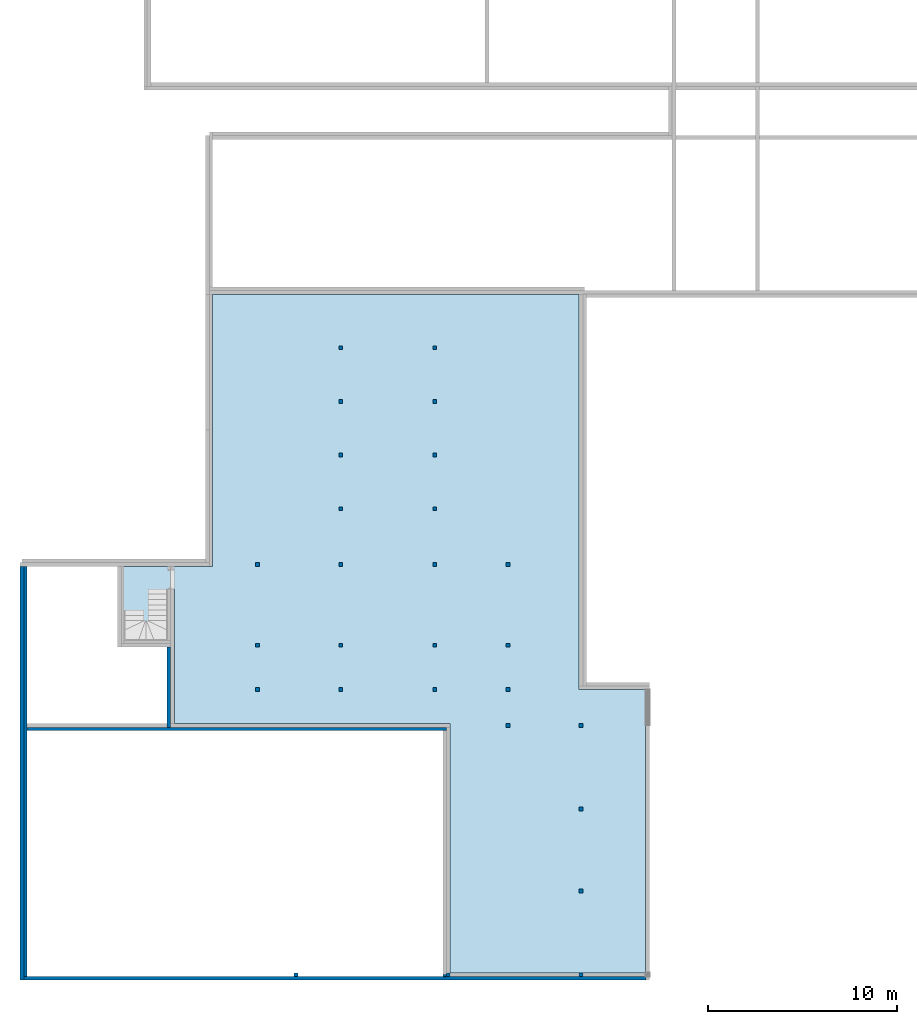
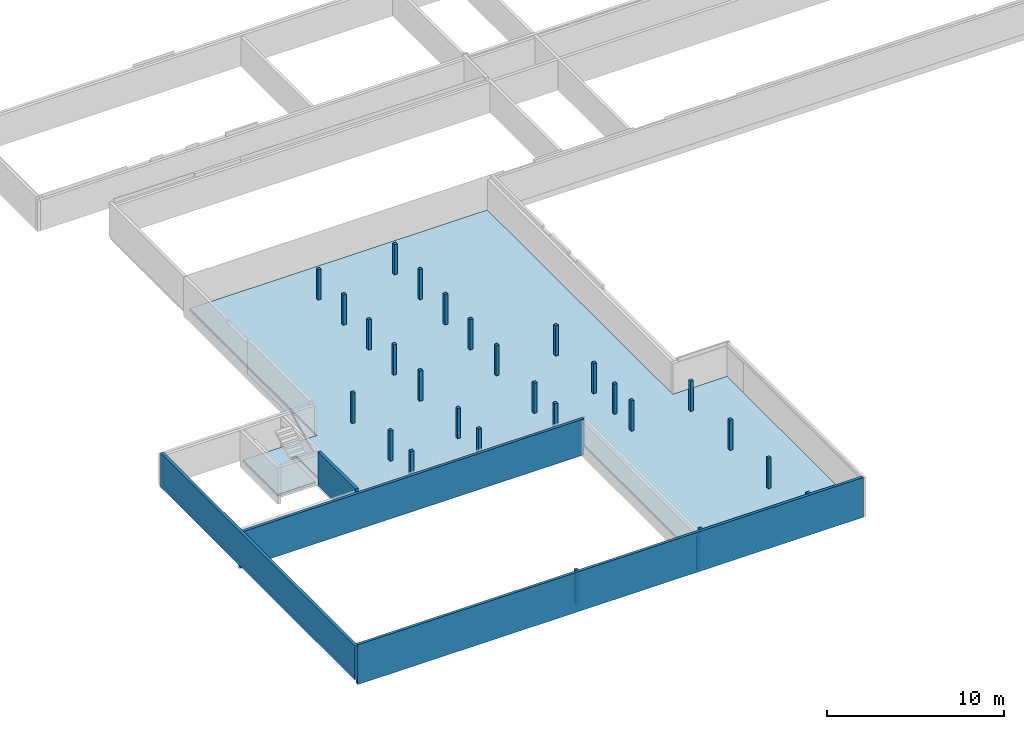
# One storey, part 1 of 6: 28 columns, 6 walls, 1 slab.
"""IFC2X3 building model written with IfcOpenShell, lengths in centimetres."""

from ifc_helpers import new_model, entity, si_unit, converted_unit, derived_unit, direction, frame, frame_2d, origin, origin_2d_with_axis, place, context, subcontext, project, spatial, polyline, rectangle, outline, extrude, clip, bounded_halfspace, source, transform, mapped, material, layer, layer_set, layer_usage, type_object, type_shapes, element, save


model = new_model("IFC2X3")

# Units and contexts
model_context = context("Model", 3, precision=0.001, world=origin(), true_north=direction((6.12303176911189e-17, 1.0)))
body_context = subcontext(model_context, "Body", "Model", "MODEL_VIEW")
ifc_project = project(units=[si_unit("LENGTHUNIT", "METRE", prefix="CENTI"), si_unit("AREAUNIT", "SQUARE_METRE"), si_unit("VOLUMEUNIT", "CUBIC_METRE"), converted_unit("PLANEANGLEUNIT", "DEGREE", entity("IfcRatioMeasure", 0.0174532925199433), si_unit("PLANEANGLEUNIT", "RADIAN"), dimensions=[0, 0, 0, 0, 0, 0, 0]), si_unit("MASSUNIT", "GRAM", prefix="KILO"), derived_unit("MASSDENSITYUNIT", [(si_unit("MASSUNIT", "GRAM", prefix="KILO"), 1), (si_unit("LENGTHUNIT", "METRE"), -3)]), si_unit("TIMEUNIT", "SECOND"), si_unit("FREQUENCYUNIT", "HERTZ"), si_unit("THERMODYNAMICTEMPERATUREUNIT", "DEGREE_CELSIUS"), derived_unit("THERMALTRANSMITTANCEUNIT", [(si_unit("MASSUNIT", "GRAM", prefix="KILO"), 1), (si_unit("THERMODYNAMICTEMPERATUREUNIT", "KELVIN"), -1), (si_unit("TIMEUNIT", "SECOND"), -3)]), derived_unit("VOLUMETRICFLOWRATEUNIT", [(si_unit("LENGTHUNIT", "METRE"), 3), (si_unit("TIMEUNIT", "SECOND"), -1)]), si_unit("ELECTRICCURRENTUNIT", "AMPERE"), si_unit("ELECTRICVOLTAGEUNIT", "VOLT"), si_unit("POWERUNIT", "WATT"), si_unit("FORCEUNIT", "NEWTON", prefix="KILO"), si_unit("ILLUMINANCEUNIT", "LUX"), si_unit("LUMINOUSFLUXUNIT", "LUMEN"), si_unit("LUMINOUSINTENSITYUNIT", "CANDELA"), derived_unit("USERDEFINED", [(si_unit("MASSUNIT", "GRAM", prefix="KILO"), -1), (si_unit("LENGTHUNIT", "METRE"), -2), (si_unit("TIMEUNIT", "SECOND"), 3), (si_unit("LUMINOUSFLUXUNIT", "LUMEN"), 1)]), derived_unit("LINEARVELOCITYUNIT", [(si_unit("LENGTHUNIT", "METRE"), 1), (si_unit("TIMEUNIT", "SECOND"), -1)]), si_unit("PRESSUREUNIT", "PASCAL"), derived_unit("USERDEFINED", [(si_unit("LENGTHUNIT", "METRE"), -2), (si_unit("MASSUNIT", "GRAM", prefix="KILO"), 1), (si_unit("TIMEUNIT", "SECOND"), -2)])], contexts=[model_context])

# Site, building, storey
site_placement = place(None, frame((-2781.94577612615, 7442.24238424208, 0.0)))
site = spatial("IfcSite", under=ifc_project, at=site_placement, Name="Default", CompositionType="ELEMENT")
building_placement = place(site_placement, origin())
building = spatial("IfcBuilding", under=site, at=building_placement, CompositionType="ELEMENT")
storey_placement = place(building_placement, frame((0.0, 0.0, -234.674140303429)))
storey = spatial("IfcBuildingStorey", under=building, at=storey_placement, Name="Vide Sanitaire", CompositionType="ELEMENT", Elevation=-234.674140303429)

# Columns
ifc_material_1 = material(Name="Maçonnerie - Béton coulé sur place")
column_type_1 = type_object("IfcColumnType", Name="200mm x 200mm", PredefinedType="COLUMN")
shared_shape_1 = source(origin(), body_context, "Body", "SweptSolid", [
    extrude(rectangle(XDim=19.9999999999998, YDim=20.0000000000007, at=frame_2d((-8.66862137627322e-13, 0.0), x_axis=(1.0, 0.0))), frame((-10421.9647381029, -5536.50173441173, -234.674140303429), z_axis=(0.0, 0.0, 1.0), x_axis=(0.0, -1.0, 0.0)), (0.0, 0.0, 1.0), 234.674140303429),
])
type_shapes(column_type_1, [shared_shape_1])
column_1_placement = place(storey_placement, frame((0.0, 0.0, 234.674140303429)))
element("IfcColumn", 1, at=column_1_placement, inside=storey, type_object=column_type_1, material=ifc_material_1, Name="Poteau béton - Carré:200mm x 200mm", ObjectType="Poteau béton - Carré:200mm x 200mm", context=body_context, shape_type="MappedRepresentation", body=[
    mapped(shared_shape_1, transform((0.0, 0.0, 0.0), scale=1.0)),
])
column_type_2 = type_object("IfcColumnType", Name="200mm x 200mm", PredefinedType="COLUMN")
shared_shape_2 = source(origin(), body_context, "Body", "SweptSolid", [
    extrude(rectangle(XDim=19.9999999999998, YDim=20.0000000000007, at=frame_2d((-8.66862137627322e-13, 0.0), x_axis=(1.0, 0.0))), frame((-10421.9647381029, -5536.50173441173, -234.674140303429), z_axis=(0.0, 0.0, 1.0), x_axis=(0.0, -1.0, 0.0)), (0.0, 0.0, 1.0), 234.674140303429),
])
type_shapes(column_type_2, [shared_shape_2])
column_2_placement = place(storey_placement, frame((0.0, 0.0, 234.674140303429)))
element("IfcColumn", 2, at=column_2_placement, inside=storey, type_object=column_type_2, material=ifc_material_1, Name="Poteau béton - Carré:200mm x 200mm", ObjectType="Poteau béton - Carré:200mm x 200mm", context=body_context, shape_type="MappedRepresentation", body=[
    mapped(shared_shape_2, transform((0.0, 0.0, 0.0), scale=1.0)),
])
column_type_3 = type_object("IfcColumnType", Name="200mm x 200mm", PredefinedType="COLUMN")
shared_shape_3 = source(origin(), body_context, "Body", "SweptSolid", [
    extrude(rectangle(XDim=19.9999999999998, YDim=20.0000000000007, at=origin_2d_with_axis()), frame((-9614.81674610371, -5536.50173441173, -234.674140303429), z_axis=(0.0, 0.0, 1.0), x_axis=(0.0, -1.0, 0.0)), (0.0, 0.0, 1.0), 234.674140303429),
])
type_shapes(column_type_3, [shared_shape_3])
column_3_placement = place(storey_placement, frame((0.0, 0.0, 234.674140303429)))
element("IfcColumn", 3, at=column_3_placement, inside=storey, type_object=column_type_3, material=ifc_material_1, Name="Poteau béton - Carré:200mm x 200mm", ObjectType="Poteau béton - Carré:200mm x 200mm", context=body_context, shape_type="MappedRepresentation", body=[
    mapped(shared_shape_3, transform((0.0, 0.0, 0.0), scale=1.0)),
])
column_type_4 = type_object("IfcColumnType", Name="200mm x 200mm", PredefinedType="COLUMN")
shared_shape_4 = source(origin(), body_context, "Body", "SweptSolid", [
    extrude(rectangle(XDim=20.0, YDim=20.0, at=origin_2d_with_axis()), frame((0.0, 0.0, -234.674140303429), z_axis=(0.0, 0.0, 1.0), x_axis=(0.0, -1.0, 0.0)), (0.0, 0.0, 1.0), 234.674140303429),
])
type_shapes(column_type_4, [shared_shape_4])
column_4_placement = place(storey_placement, frame((-8911.932180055, -5536.50173441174, 234.674140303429)))
element("IfcColumn", 4, at=column_4_placement, inside=storey, type_object=column_type_4, material=ifc_material_1, Name="Poteau béton - Carré:200mm x 200mm", ObjectType="Poteau béton - Carré:200mm x 200mm", context=body_context, shape_type="MappedRepresentation", body=[
    mapped(shared_shape_4, transform((0.0, 0.0, 0.0), scale=1.0)),
])
column_type_5 = type_object("IfcColumnType", Name="200mm x 200mm", PredefinedType="COLUMN")
shared_shape_5 = source(origin(), body_context, "Body", "SweptSolid", [
    extrude(rectangle(XDim=19.9999999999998, YDim=20.0000000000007, at=origin_2d_with_axis()), frame((-10625.8586792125, -4025.07903364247, -234.674140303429), z_axis=(0.0, 0.0, 1.0), x_axis=(0.0, -1.0, 0.0)), (0.0, 0.0, 1.0), 208.674140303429),
])
type_shapes(column_type_5, [shared_shape_5])
column_5_placement = place(storey_placement, frame((0.0, 0.0, 234.674140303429)))
element("IfcColumn", 5, at=column_5_placement, inside=storey, type_object=column_type_5, material=ifc_material_1, Name="Poteau béton - Carré:200mm x 200mm", ObjectType="Poteau béton - Carré:200mm x 200mm", context=body_context, shape_type="MappedRepresentation", body=[
    mapped(shared_shape_5, transform((0.0, 0.0, 0.0), scale=1.0)),
])
column_type_6 = type_object("IfcColumnType", Name="200mm x 200mm", PredefinedType="COLUMN")
shared_shape_6 = source(origin(), body_context, "Body", "SweptSolid", [
    extrude(rectangle(XDim=19.9999999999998, YDim=20.0000000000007, at=origin_2d_with_axis()), frame((-10184.834550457, -4025.07903364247, -234.674140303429), z_axis=(0.0, 0.0, 1.0), x_axis=(0.0, -1.0, 0.0)), (0.0, 0.0, 1.0), 208.674140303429),
])
type_shapes(column_type_6, [shared_shape_6])
column_6_placement = place(storey_placement, frame((0.0, 0.0, 234.674140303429)))
element("IfcColumn", 6, at=column_6_placement, inside=storey, type_object=column_type_6, material=ifc_material_1, Name="Poteau béton - Carré:200mm x 200mm", ObjectType="Poteau béton - Carré:200mm x 200mm", context=body_context, shape_type="MappedRepresentation", body=[
    mapped(shared_shape_6, transform((0.0, 0.0, 0.0), scale=1.0)),
])
column_type_7 = type_object("IfcColumnType", Name="200mm x 200mm", PredefinedType="COLUMN")
shared_shape_7 = source(origin(), body_context, "Body", "SweptSolid", [
    extrude(rectangle(XDim=19.9999999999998, YDim=20.0000000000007, at=origin_2d_with_axis()), frame((-9687.0, -4025.07903364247, -234.674140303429), z_axis=(0.0, 0.0, 1.0), x_axis=(0.0, -1.0, 0.0)), (0.0, 0.0, 1.0), 208.674140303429),
])
type_shapes(column_type_7, [shared_shape_7])
column_7_placement = place(storey_placement, frame((0.0, 0.0, 234.674140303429)))
element("IfcColumn", 7, at=column_7_placement, inside=storey, type_object=column_type_7, material=ifc_material_1, Name="Poteau béton - Carré:200mm x 200mm", ObjectType="Poteau béton - Carré:200mm x 200mm", context=body_context, shape_type="MappedRepresentation", body=[
    mapped(shared_shape_7, transform((0.0, 0.0, 0.0), scale=1.0)),
])
column_type_8 = type_object("IfcColumnType", Name="200mm x 200mm", PredefinedType="COLUMN")
shared_shape_8 = source(origin(), body_context, "Body", "SweptSolid", [
    extrude(rectangle(XDim=19.9999999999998, YDim=20.0000000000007, at=origin_2d_with_axis()), frame((-10625.8586792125, -3790.71966115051, -234.674140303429), z_axis=(0.0, 0.0, 1.0), x_axis=(0.0, -1.0, 0.0)), (0.0, 0.0, 1.0), 208.674140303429),
])
type_shapes(column_type_8, [shared_shape_8])
column_8_placement = place(storey_placement, frame((0.0, 0.0, 234.674140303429)))
element("IfcColumn", 8, at=column_8_placement, inside=storey, type_object=column_type_8, material=ifc_material_1, Name="Poteau béton - Carré:200mm x 200mm", ObjectType="Poteau béton - Carré:200mm x 200mm", context=body_context, shape_type="MappedRepresentation", body=[
    mapped(shared_shape_8, transform((0.0, 0.0, 0.0), scale=1.0)),
])
column_type_9 = type_object("IfcColumnType", Name="200mm x 200mm", PredefinedType="COLUMN")
shared_shape_9 = source(origin(), body_context, "Body", "SweptSolid", [
    extrude(rectangle(XDim=19.9999999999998, YDim=20.0000000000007, at=origin_2d_with_axis()), frame((-10184.834550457, -3790.71966115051, -234.674140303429), z_axis=(0.0, 0.0, 1.0), x_axis=(0.0, -1.0, 0.0)), (0.0, 0.0, 1.0), 208.674140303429),
])
type_shapes(column_type_9, [shared_shape_9])
column_9_placement = place(storey_placement, frame((0.0, 0.0, 234.674140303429)))
element("IfcColumn", 9, at=column_9_placement, inside=storey, type_object=column_type_9, material=ifc_material_1, Name="Poteau béton - Carré:200mm x 200mm", ObjectType="Poteau béton - Carré:200mm x 200mm", context=body_context, shape_type="MappedRepresentation", body=[
    mapped(shared_shape_9, transform((0.0, 0.0, 0.0), scale=1.0)),
])
column_type_10 = type_object("IfcColumnType", Name="200mm x 200mm", PredefinedType="COLUMN")
shared_shape_10 = source(origin(), body_context, "Body", "SweptSolid", [
    extrude(rectangle(XDim=19.9999999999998, YDim=20.0000000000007, at=origin_2d_with_axis()), frame((-9687.0, -3790.71966115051, -234.674140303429), z_axis=(0.0, 0.0, 1.0), x_axis=(0.0, -1.0, 0.0)), (0.0, 0.0, 1.0), 208.674140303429),
])
type_shapes(column_type_10, [shared_shape_10])
column_10_placement = place(storey_placement, frame((0.0, 0.0, 234.674140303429)))
element("IfcColumn", 10, at=column_10_placement, inside=storey, type_object=column_type_10, material=ifc_material_1, Name="Poteau béton - Carré:200mm x 200mm", ObjectType="Poteau béton - Carré:200mm x 200mm", context=body_context, shape_type="MappedRepresentation", body=[
    mapped(shared_shape_10, transform((0.0, 0.0, 0.0), scale=1.0)),
])
column_type_11 = type_object("IfcColumnType", Name="200mm x 200mm", PredefinedType="COLUMN")
shared_shape_11 = source(origin(), body_context, "Body", "SweptSolid", [
    extrude(rectangle(XDim=19.9999999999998, YDim=20.0000000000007, at=frame_2d((4.33431068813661e-13, 0.0), x_axis=(1.0, 0.0))), frame((-9299.46608851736, -3790.71966115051, -234.674140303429), z_axis=(0.0, 0.0, 1.0), x_axis=(0.0, -1.0, 0.0)), (0.0, 0.0, 1.0), 208.674140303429),
])
type_shapes(column_type_11, [shared_shape_11])
column_11_placement = place(storey_placement, frame((0.0, 0.0, 234.674140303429)))
element("IfcColumn", 11, at=column_11_placement, inside=storey, type_object=column_type_11, material=ifc_material_1, Name="Poteau béton - Carré:200mm x 200mm", ObjectType="Poteau béton - Carré:200mm x 200mm", context=body_context, shape_type="MappedRepresentation", body=[
    mapped(shared_shape_11, transform((0.0, 0.0, 0.0), scale=1.0)),
])
column_type_12 = type_object("IfcColumnType", Name="200mm x 200mm", PredefinedType="COLUMN")
shared_shape_12 = source(origin(), body_context, "Body", "SweptSolid", [
    extrude(rectangle(XDim=19.9999999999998, YDim=20.0000000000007, at=origin_2d_with_axis()), frame((-10184.834550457, -3068.03325194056, -234.674140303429), z_axis=(0.0, 0.0, 1.0), x_axis=(0.0, -1.0, 0.0)), (0.0, 0.0, 1.0), 208.674140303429),
])
type_shapes(column_type_12, [shared_shape_12])
column_12_placement = place(storey_placement, frame((0.0, 0.0, 234.674140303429)))
element("IfcColumn", 12, at=column_12_placement, inside=storey, type_object=column_type_12, material=ifc_material_1, Name="Poteau béton - Carré:200mm x 200mm", ObjectType="Poteau béton - Carré:200mm x 200mm", context=body_context, shape_type="MappedRepresentation", body=[
    mapped(shared_shape_12, transform((0.0, 0.0, 0.0), scale=1.0)),
])
column_type_13 = type_object("IfcColumnType", Name="200mm x 200mm", PredefinedType="COLUMN")
shared_shape_13 = source(origin(), body_context, "Body", "SweptSolid", [
    extrude(rectangle(XDim=19.9999999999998, YDim=20.0000000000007, at=origin_2d_with_axis()), frame((-10184.834550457, -2783.54469736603, -234.674140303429), z_axis=(0.0, 0.0, 1.0), x_axis=(0.0, -1.0, 0.0)), (0.0, 0.0, 1.0), 208.674140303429),
])
type_shapes(column_type_13, [shared_shape_13])
column_13_placement = place(storey_placement, frame((0.0, 0.0, 234.674140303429)))
element("IfcColumn", 13, at=column_13_placement, inside=storey, type_object=column_type_13, material=ifc_material_1, Name="Poteau béton - Carré:200mm x 200mm", ObjectType="Poteau béton - Carré:200mm x 200mm", context=body_context, shape_type="MappedRepresentation", body=[
    mapped(shared_shape_13, transform((0.0, 0.0, 0.0), scale=1.0)),
])
column_type_14 = type_object("IfcColumnType", Name="200mm x 200mm", PredefinedType="COLUMN")
shared_shape_14 = source(origin(), body_context, "Body", "SweptSolid", [
    extrude(rectangle(XDim=19.9999999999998, YDim=20.0000000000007, at=origin_2d_with_axis()), frame((-10184.834550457, -2499.05614279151, -234.674140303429), z_axis=(0.0, 0.0, 1.0), x_axis=(0.0, -1.0, 0.0)), (0.0, 0.0, 1.0), 208.674140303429),
])
type_shapes(column_type_14, [shared_shape_14])
column_14_placement = place(storey_placement, frame((0.0, 0.0, 234.674140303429)))
element("IfcColumn", 14, at=column_14_placement, inside=storey, type_object=column_type_14, material=ifc_material_1, Name="Poteau béton - Carré:200mm x 200mm", ObjectType="Poteau béton - Carré:200mm x 200mm", context=body_context, shape_type="MappedRepresentation", body=[
    mapped(shared_shape_14, transform((0.0, 0.0, 0.0), scale=1.0)),
])
column_type_15 = type_object("IfcColumnType", Name="200mm x 200mm", PredefinedType="COLUMN")
shared_shape_15 = source(origin(), body_context, "Body", "SweptSolid", [
    extrude(rectangle(XDim=19.9999999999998, YDim=20.0000000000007, at=origin_2d_with_axis()), frame((-10184.834550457, -2214.56758821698, -234.674140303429), z_axis=(0.0, 0.0, 1.0), x_axis=(0.0, -1.0, 0.0)), (0.0, 0.0, 1.0), 208.674140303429),
])
type_shapes(column_type_15, [shared_shape_15])
column_15_placement = place(storey_placement, frame((0.0, 0.0, 234.674140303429)))
element("IfcColumn", 15, at=column_15_placement, inside=storey, type_object=column_type_15, material=ifc_material_1, Name="Poteau béton - Carré:200mm x 200mm", ObjectType="Poteau béton - Carré:200mm x 200mm", context=body_context, shape_type="MappedRepresentation", body=[
    mapped(shared_shape_15, transform((0.0, 0.0, 0.0), scale=1.0)),
])
column_type_16 = type_object("IfcColumnType", Name="200mm x 200mm", PredefinedType="COLUMN")
shared_shape_16 = source(origin(), body_context, "Body", "SweptSolid", [
    extrude(rectangle(XDim=19.9999999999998, YDim=20.0000000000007, at=origin_2d_with_axis()), frame((-9687.0, -3068.03325194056, -234.674140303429), z_axis=(0.0, 0.0, 1.0), x_axis=(0.0, -1.0, 0.0)), (0.0, 0.0, 1.0), 208.674140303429),
])
type_shapes(column_type_16, [shared_shape_16])
column_16_placement = place(storey_placement, frame((0.0, 0.0, 234.674140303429)))
element("IfcColumn", 16, at=column_16_placement, inside=storey, type_object=column_type_16, material=ifc_material_1, Name="Poteau béton - Carré:200mm x 200mm", ObjectType="Poteau béton - Carré:200mm x 200mm", context=body_context, shape_type="MappedRepresentation", body=[
    mapped(shared_shape_16, transform((0.0, 0.0, 0.0), scale=1.0)),
])
column_type_17 = type_object("IfcColumnType", Name="200mm x 200mm", PredefinedType="COLUMN")
shared_shape_17 = source(origin(), body_context, "Body", "SweptSolid", [
    extrude(rectangle(XDim=19.9999999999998, YDim=20.0000000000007, at=origin_2d_with_axis()), frame((-9687.0, -2783.54469736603, -234.674140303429), z_axis=(0.0, 0.0, 1.0), x_axis=(0.0, -1.0, 0.0)), (0.0, 0.0, 1.0), 208.674140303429),
])
type_shapes(column_type_17, [shared_shape_17])
column_17_placement = place(storey_placement, frame((0.0, 0.0, 234.674140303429)))
element("IfcColumn", 17, at=column_17_placement, inside=storey, type_object=column_type_17, material=ifc_material_1, Name="Poteau béton - Carré:200mm x 200mm", ObjectType="Poteau béton - Carré:200mm x 200mm", context=body_context, shape_type="MappedRepresentation", body=[
    mapped(shared_shape_17, transform((0.0, 0.0, 0.0), scale=1.0)),
])
column_type_18 = type_object("IfcColumnType", Name="200mm x 200mm", PredefinedType="COLUMN")
shared_shape_18 = source(origin(), body_context, "Body", "SweptSolid", [
    extrude(rectangle(XDim=19.9999999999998, YDim=20.0000000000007, at=origin_2d_with_axis()), frame((-9687.0, -2499.05614279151, -234.674140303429), z_axis=(0.0, 0.0, 1.0), x_axis=(0.0, -1.0, 0.0)), (0.0, 0.0, 1.0), 208.674140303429),
])
type_shapes(column_type_18, [shared_shape_18])
column_18_placement = place(storey_placement, frame((0.0, 0.0, 234.674140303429)))
element("IfcColumn", 18, at=column_18_placement, inside=storey, type_object=column_type_18, material=ifc_material_1, Name="Poteau béton - Carré:200mm x 200mm", ObjectType="Poteau béton - Carré:200mm x 200mm", context=body_context, shape_type="MappedRepresentation", body=[
    mapped(shared_shape_18, transform((0.0, 0.0, 0.0), scale=1.0)),
])
column_type_19 = type_object("IfcColumnType", Name="200mm x 200mm", PredefinedType="COLUMN")
shared_shape_19 = source(origin(), body_context, "Body", "SweptSolid", [
    extrude(rectangle(XDim=19.9999999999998, YDim=20.0000000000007, at=origin_2d_with_axis()), frame((-9687.0, -2214.56758821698, -234.674140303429), z_axis=(0.0, 0.0, 1.0), x_axis=(0.0, -1.0, 0.0)), (0.0, 0.0, 1.0), 208.674140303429),
])
type_shapes(column_type_19, [shared_shape_19])
column_19_placement = place(storey_placement, frame((0.0, 0.0, 234.674140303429)))
element("IfcColumn", 19, at=column_19_placement, inside=storey, type_object=column_type_19, material=ifc_material_1, Name="Poteau béton - Carré:200mm x 200mm", ObjectType="Poteau béton - Carré:200mm x 200mm", context=body_context, shape_type="MappedRepresentation", body=[
    mapped(shared_shape_19, transform((0.0, 0.0, 0.0), scale=1.0)),
])
column_type_20 = type_object("IfcColumnType", Name="200mm x 200mm", PredefinedType="COLUMN")
shared_shape_20 = source(origin(), body_context, "Body", "SweptSolid", [
    extrude(rectangle(XDim=19.9999999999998, YDim=20.0000000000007, at=frame_2d((-4.33431068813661e-13, 0.0), x_axis=(1.0, 0.0))), frame((-10184.834550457, -3362.52180651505, -234.674140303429), z_axis=(0.0, 0.0, 1.0), x_axis=(0.0, -1.0, 0.0)), (0.0, 0.0, 1.0), 208.674140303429),
])
type_shapes(column_type_20, [shared_shape_20])
column_20_placement = place(storey_placement, frame((0.0, 0.0, 234.674140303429)))
element("IfcColumn", 20, at=column_20_placement, inside=storey, type_object=column_type_20, material=ifc_material_1, Name="Poteau béton - Carré:200mm x 200mm", ObjectType="Poteau béton - Carré:200mm x 200mm", context=body_context, shape_type="MappedRepresentation", body=[
    mapped(shared_shape_20, transform((0.0, 0.0, 0.0), scale=1.0)),
])
column_type_21 = type_object("IfcColumnType", Name="200mm x 200mm", PredefinedType="COLUMN")
shared_shape_21 = source(origin(), body_context, "Body", "SweptSolid", [
    extrude(rectangle(XDim=19.9999999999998, YDim=20.0000000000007, at=frame_2d((4.33431068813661e-13, 0.0), x_axis=(1.0, 0.0))), frame((-9687.0, -3362.52180651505, -234.674140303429), z_axis=(0.0, 0.0, 1.0), x_axis=(0.0, -1.0, 0.0)), (0.0, 0.0, 1.0), 208.674140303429),
])
type_shapes(column_type_21, [shared_shape_21])
column_21_placement = place(storey_placement, frame((0.0, 0.0, 234.674140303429)))
element("IfcColumn", 21, at=column_21_placement, inside=storey, type_object=column_type_21, material=ifc_material_1, Name="Poteau béton - Carré:200mm x 200mm", ObjectType="Poteau béton - Carré:200mm x 200mm", context=body_context, shape_type="MappedRepresentation", body=[
    mapped(shared_shape_21, transform((0.0, 0.0, 0.0), scale=1.0)),
])
column_type_22 = type_object("IfcColumnType", Name="200mm x 200mm", PredefinedType="COLUMN")
shared_shape_22 = source(origin(), body_context, "Body", "SweptSolid", [
    extrude(rectangle(XDim=19.9999999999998, YDim=20.0000000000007, at=frame_2d((-4.33431068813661e-13, 0.0), x_axis=(1.0, 0.0))), frame((-10625.8586792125, -3362.52180651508, -234.674140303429), z_axis=(0.0, 0.0, 1.0), x_axis=(0.0, -1.0, 0.0)), (0.0, 0.0, 1.0), 208.674140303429),
])
type_shapes(column_type_22, [shared_shape_22])
column_22_placement = place(storey_placement, frame((0.0, 0.0, 234.674140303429)))
element("IfcColumn", 22, at=column_22_placement, inside=storey, type_object=column_type_22, material=ifc_material_1, Name="Poteau béton - Carré:200mm x 200mm", ObjectType="Poteau béton - Carré:200mm x 200mm", context=body_context, shape_type="MappedRepresentation", body=[
    mapped(shared_shape_22, transform((0.0, 0.0, 0.0), scale=1.0)),
])
column_type_23 = type_object("IfcColumnType", Name="200mm x 200mm", PredefinedType="COLUMN")
shared_shape_23 = source(origin(), body_context, "Body", "SweptSolid", [
    extrude(rectangle(XDim=19.9999999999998, YDim=20.0000000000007, at=origin_2d_with_axis()), frame((-9299.46608851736, -3362.52180651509, -234.674140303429), z_axis=(0.0, 0.0, 1.0), x_axis=(0.0, -1.0, 0.0)), (0.0, 0.0, 1.0), 208.674140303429),
])
type_shapes(column_type_23, [shared_shape_23])
column_23_placement = place(storey_placement, frame((0.0, 0.0, 234.674140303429)))
element("IfcColumn", 23, at=column_23_placement, inside=storey, type_object=column_type_23, material=ifc_material_1, Name="Poteau béton - Carré:200mm x 200mm", ObjectType="Poteau béton - Carré:200mm x 200mm", context=body_context, shape_type="MappedRepresentation", body=[
    mapped(shared_shape_23, transform((0.0, 0.0, 0.0), scale=1.0)),
])
column_type_24 = type_object("IfcColumnType", Name="200mm x 200mm", PredefinedType="COLUMN")
shared_shape_24 = source(origin(), body_context, "Body", "SweptSolid", [
    extrude(rectangle(XDim=19.9999999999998, YDim=20.0000000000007, at=origin_2d_with_axis()), frame((-9299.46608851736, -4025.07903364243, -234.674140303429), z_axis=(0.0, 0.0, 1.0), x_axis=(0.0, -1.0, 0.0)), (0.0, 0.0, 1.0), 208.674140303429),
])
type_shapes(column_type_24, [shared_shape_24])
column_24_placement = place(storey_placement, frame((0.0, 0.0, 234.674140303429)))
element("IfcColumn", 24, at=column_24_placement, inside=storey, type_object=column_type_24, material=ifc_material_1, Name="Poteau béton - Carré:200mm x 200mm", ObjectType="Poteau béton - Carré:200mm x 200mm", context=body_context, shape_type="MappedRepresentation", body=[
    mapped(shared_shape_24, transform((0.0, 0.0, 0.0), scale=1.0)),
])
column_type_25 = type_object("IfcColumnType", Name="200mm x 200mm", PredefinedType="COLUMN")
shared_shape_25 = source(origin(), body_context, "Body", "SweptSolid", [
    extrude(rectangle(XDim=19.9999999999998, YDim=20.0000000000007, at=origin_2d_with_axis()), frame((-9299.46608851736, -4215.50027342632, -234.674140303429), z_axis=(0.0, 0.0, 1.0), x_axis=(0.0, -1.0, 0.0)), (0.0, 0.0, 1.0), 208.674140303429),
])
type_shapes(column_type_25, [shared_shape_25])
column_25_placement = place(storey_placement, frame((0.0, 0.0, 234.674140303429)))
element("IfcColumn", 25, at=column_25_placement, inside=storey, type_object=column_type_25, material=ifc_material_1, Name="Poteau béton - Carré:200mm x 200mm", ObjectType="Poteau béton - Carré:200mm x 200mm", context=body_context, shape_type="MappedRepresentation", body=[
    mapped(shared_shape_25, transform((0.0, 0.0, 0.0), scale=1.0)),
])
column_type_26 = type_object("IfcColumnType", Name="200mm x 200mm", PredefinedType="COLUMN")
shared_shape_26 = source(origin(), body_context, "Body", "SweptSolid", [
    extrude(rectangle(XDim=19.9999999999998, YDim=20.0000000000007, at=origin_2d_with_axis()), frame((-8911.93218005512, -4215.50027342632, -234.674140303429), z_axis=(0.0, 0.0, 1.0), x_axis=(0.0, -1.0, 0.0)), (0.0, 0.0, 1.0), 208.674140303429),
])
type_shapes(column_type_26, [shared_shape_26])
column_26_placement = place(storey_placement, frame((0.0, 0.0, 234.674140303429)))
element("IfcColumn", 26, at=column_26_placement, inside=storey, type_object=column_type_26, material=ifc_material_1, Name="Poteau béton - Carré:200mm x 200mm", ObjectType="Poteau béton - Carré:200mm x 200mm", context=body_context, shape_type="MappedRepresentation", body=[
    mapped(shared_shape_26, transform((0.0, 0.0, 0.0), scale=1.0)),
])
column_type_27 = type_object("IfcColumnType", Name="200mm x 200mm", PredefinedType="COLUMN")
shared_shape_27 = source(origin(), body_context, "Body", "SweptSolid", [
    extrude(rectangle(XDim=20.0, YDim=20.0, at=origin_2d_with_axis()), frame((0.0, 0.0, -234.674140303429), z_axis=(0.0, 0.0, 1.0), x_axis=(0.0, -1.0, 0.0)), (0.0, 0.0, 1.0), 208.674140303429),
])
type_shapes(column_type_27, [shared_shape_27])
column_27_placement = place(storey_placement, frame((-8911.93218005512, -5092.8345807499, 234.674140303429)))
element("IfcColumn", 27, at=column_27_placement, inside=storey, type_object=column_type_27, material=ifc_material_1, Name="Poteau béton - Carré:200mm x 200mm", ObjectType="Poteau béton - Carré:200mm x 200mm", context=body_context, shape_type="MappedRepresentation", body=[
    mapped(shared_shape_27, transform((0.0, 0.0, 0.0), scale=1.0)),
])
column_type_28 = type_object("IfcColumnType", Name="200mm x 200mm", PredefinedType="COLUMN")
shared_shape_28 = source(origin(), body_context, "Body", "SweptSolid", [
    extrude(rectangle(XDim=19.9999999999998, YDim=20.0000000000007, at=origin_2d_with_axis()), frame((-8911.93218005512, -4659.16742708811, -234.674140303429), z_axis=(0.0, 0.0, 1.0), x_axis=(0.0, -1.0, 0.0)), (0.0, 0.0, 1.0), 208.674140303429),
])
type_shapes(column_type_28, [shared_shape_28])
column_28_placement = place(storey_placement, frame((0.0, 0.0, 234.674140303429)))
element("IfcColumn", 28, at=column_28_placement, inside=storey, type_object=column_type_28, material=ifc_material_1, Name="Poteau béton - Carré:200mm x 200mm", ObjectType="Poteau béton - Carré:200mm x 200mm", context=body_context, shape_type="MappedRepresentation", body=[
    mapped(shared_shape_28, transform((0.0, 0.0, 0.0), scale=1.0)),
])

# Slab
ifc_material_2 = material(Name="Umgebung - Gras")
ifc_layer_1 = layer(ifc_material_2, 15.0)
ifc_layer_set_1 = layer_set([ifc_layer_1], Name="Sol:02 - SOL VS")
ifc_layer_usage_1 = layer_usage(ifc_layer_set_1, "AXIS3", "POSITIVE", 0.0)
slab_type = type_object("IfcSlabType", Name="Sol:02 - SOL VS", PredefinedType="FLOOR", material=ifc_layer_set_1)
slab_placement = place(storey_placement, origin())
element("IfcSlab", 29, at=slab_placement, inside=storey, type_object=slab_type, material=ifc_layer_usage_1, Name="Sol:02 - SOL VS", ObjectType="Sol:02 - SOL VS", PredefinedType="FLOOR", context=body_context, shape_type="SweptSolid", body=[
    extrude(outline(polyline([(-5.40061124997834, -1136.61589176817), (387.497243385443, -1136.61589176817), (387.497243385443, -652.746131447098), (1828.63001625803, -652.746131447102), (1828.63001625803, 1288.93473614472), (-266.25998374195, 1288.93473614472), (-266.259983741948, 1641.87953530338), (-1766.48268451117, 1641.87953530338), (-1766.48268451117, 605.879535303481), (-445.481223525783, 605.879535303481), (-445.481223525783, -856.015891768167), (267.497243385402, -856.015891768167), (267.497243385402, -891.315891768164), (-5.40061124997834, -891.315891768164), (-5.40061124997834, -1136.61589176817)])), frame((-10210.8669161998, -3760.01904990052, -0.32585969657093), z_axis=(0.0, 0.0, -1.0), x_axis=(0.0, 1.0, 0.0)), (0.0, 0.0, 1.0), 15.0),
])

# Walls
ifc_material_3 = material(Name="01 - Maçonnerie")
ifc_layer_2 = layer(ifc_material_3, 20.0)
ifc_layer_set_2 = layer_set([ifc_layer_2], Name="Mur de base:04 - Structure - béton - 20cm")
ifc_layer_usage_2 = layer_usage(ifc_layer_set_2, "AXIS2", "NEGATIVE", 10.0)
wall_type_1 = type_object("IfcWallType", Name="Mur de base:04 - Structure - béton - 20cm", PredefinedType="STANDARD", material=ifc_layer_set_2)
wall_1_placement = place(storey_placement, frame((-11874.3505746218, -3372.52180651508, 0.0), z_axis=(0.0, 0.0, 1.0), x_axis=(0.0, -1.0, 0.0)))
element("IfcWallStandardCase", 30, at=wall_1_placement, inside=storey, type_object=wall_type_1, material=ifc_layer_usage_2, Name="Mur de base:04 - Structure - béton - 20cm", ObjectType="Mur de base:04 - Structure - béton - 20cm", context=body_context, shape_type="SweptSolid", body=[
    extrude(rectangle(XDim=2191.97992789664, YDim=19.9999999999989, at=frame_2d((1095.98996394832, 5.50670620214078e-14), x_axis=(-1.0, 0.0))), origin(), (0.0, 0.0, 1.0), 234.674140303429),
])
ifc_material_4 = material(Name="00 - Isolant")
ifc_layer_3 = layer(ifc_material_4, 18.0)
ifc_layer_set_3 = layer_set([ifc_layer_3], Name="Mur de base:04 - Parement - ITE 18 - isolation enterrée")
ifc_layer_usage_3 = layer_usage(ifc_layer_set_3, "AXIS2", "NEGATIVE", 9.0)
wall_type_2 = type_object("IfcWallType", Name="Mur de base:04 - Parement - ITE 18 - isolation enterrée", PredefinedType="STANDARD", material=ifc_layer_set_3)
wall_2_placement = place(storey_placement, frame((-8566.98738089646, -5555.50173441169, -40.0), z_axis=(0.0, 0.0, 1.0), x_axis=(-1.0, 0.0, 0.0)))
element("IfcWallStandardCase", 31, at=wall_2_placement, inside=storey, type_object=wall_type_2, material=ifc_layer_usage_3, Name="Mur de base:04 - Parement - ITE 18 - isolation enterrée", ObjectType="Mur de base:04 - Parement - ITE 18 - isolation enterrée", context=body_context, shape_type="SweptSolid", body=[
    extrude(rectangle(XDim=3297.36319372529, YDim=17.9999999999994, at=frame_2d((1648.68159686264, -6.03961325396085e-14), x_axis=(-1.0, 0.0))), origin(), (0.0, 0.0, 1.0), 274.674140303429),
])
ifc_layer_usage_4 = layer_usage(ifc_layer_set_3, "AXIS2", "NEGATIVE", 9.0)
wall_3_placement = place(storey_placement, frame((-11855.3505746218, -5546.50173441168, 0.0), z_axis=(0.0, 0.0, 1.0), x_axis=(0.0, 1.0, 0.0)))
element("IfcWallStandardCase", 32, at=wall_3_placement, inside=storey, type_object=wall_type_2, material=ifc_layer_usage_4, Name="Mur de base:04 - Parement - ITE 18 - isolation enterrée", ObjectType="Mur de base:04 - Parement - ITE 18 - isolation enterrée", context=body_context, shape_type="Clipping", body=[
    clip(extrude(rectangle(XDim=2173.9799278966, YDim=17.9999999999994, at=frame_2d((1086.9899639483, 1.68753899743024e-14), x_axis=(-1.0, 0.0))), origin(), (0.0, 0.0, 1.0), 208.674140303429), bounded_halfspace(frame((14.0, -9.0, 208.674140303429), z_axis=(0.0, 0.0, -1.0), x_axis=(-1.0, 0.0, 0.0)), True, frame((14.0, -9.0, 208.674140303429)), polyline([(0.0, 0.0), (6.0, 0.0), (2159.97992789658, 0.0), (2159.97992789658, 18.0), (0.0, 18.0), (0.0, 0.0)]))),
])
ifc_layer_usage_5 = layer_usage(ifc_layer_set_3, "AXIS2", "NEGATIVE", 9.0)
wall_4_placement = place(storey_placement, frame((-11095.882807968, -3800.7196611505, 0.0), z_axis=(0.0, 0.0, 1.0), x_axis=(0.0, -1.0, 0.0)))
element("IfcWallStandardCase", 33, at=wall_4_placement, inside=storey, type_object=wall_type_2, material=ifc_layer_usage_5, Name="Mur de base:04 - Parement - ITE 18 - isolation enterrée", ObjectType="Mur de base:04 - Parement - ITE 18 - isolation enterrée", context=body_context, shape_type="SweptSolid", body=[
    extrude(rectangle(XDim=424.780612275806, YDim=17.9999999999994, at=frame_2d((212.390306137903, 0.0), x_axis=(-1.0, 0.0))), origin(), (0.0, 0.0, 1.0), 230.0),
])
ifc_layer_usage_6 = layer_usage(ifc_layer_set_3, "AXIS2", "NEGATIVE", 9.0)
wall_5_placement = place(storey_placement, frame((-9624.98738089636, -4234.50027342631, -40.0), z_axis=(0.0, 0.0, 1.0), x_axis=(-1.0, 0.0, 0.0)))
element("IfcWallStandardCase", 34, at=wall_5_placement, inside=storey, type_object=wall_type_2, material=ifc_layer_usage_6, Name="Mur de base:04 - Parement - ITE 18 - isolation enterrée", ObjectType="Mur de base:04 - Parement - ITE 18 - isolation enterrée", context=body_context, shape_type="Clipping", body=[
    clip(extrude(rectangle(XDim=2239.36319372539, YDim=17.9999999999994, at=frame_2d((1119.6815968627, -7.99360577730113e-15), x_axis=(-1.0, 0.0))), origin(), (0.0, 0.0, 1.0), 248.674140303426), bounded_halfspace(frame((0.0, -9.0, 248.674140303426), z_axis=(0.0, 0.0, -1.0), x_axis=(0.0, 1.0, 0.0)), True, frame((0.0, -9.0, 248.674140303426)), polyline([(0.0, 0.0), (2239.36319372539, 0.0), (2239.36319372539, 18.0), (0.0, 18.0), (0.0, 0.0)]))),
])
ifc_layer_usage_7 = layer_usage(ifc_layer_set_3, "AXIS2", "NEGATIVE", 9.0)
wall_6_placement = place(storey_placement, frame((-9633.98738089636, -5536.50173441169, -40.0), z_axis=(0.0, 0.0, 1.0), x_axis=(0.0, -1.0, 0.0)))
element("IfcWallStandardCase", 35, at=wall_6_placement, inside=storey, type_object=wall_type_2, material=ifc_layer_usage_7, Name="Mur de base:04 - Parement - ITE 18 - isolation enterrée", ObjectType="Mur de base:04 - Parement - ITE 18 - isolation enterrée", context=body_context, shape_type="Clipping", body=[
    clip(extrude(rectangle(XDim=9.99999999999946, YDim=17.9999999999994, at=frame_2d((4.99999999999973, 5.32907051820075e-15), x_axis=(-1.0, 0.0))), origin(), (0.0, 0.0, 1.0), 230.0), bounded_halfspace(frame((10.0, -9.0, 230.0), z_axis=(-1.0, 0.0, 0.0), x_axis=(0.0, -1.0, 0.0)), True, frame((10.0, -9.0, 230.0), z_axis=(-1.0, 0.0, 0.0), x_axis=(0.0, -1.0, 0.0)), polyline([(0.0, 0.0), (-18.0, 0.0), (-18.0, -230.0), (0.0, -230.0), (0.0, 0.0)]))),
])

save(model, "model.ifc")
